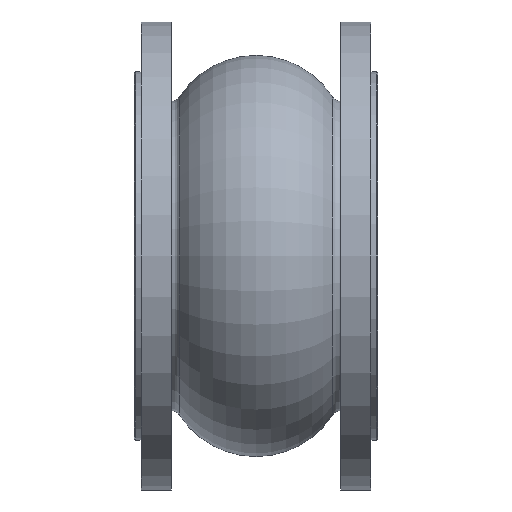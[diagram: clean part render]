
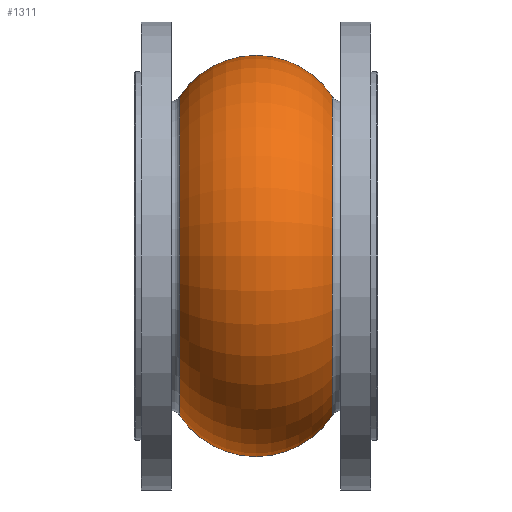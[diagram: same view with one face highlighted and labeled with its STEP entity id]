
A CAD part, front view. The second image highlights one B-rep face of the part: STEP entity #1311.
In plain terms, the highlighted toroidal (fillet/blend) face has major radius 79.302 mm and minor radius 66.395 mm.
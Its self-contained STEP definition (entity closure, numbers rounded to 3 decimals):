
#653 = CIRCLE ( 'NONE', #657, 115.735 ) ;
#657 = AXIS2_PLACEMENT_3D ( 'NONE', #794, #682, #875 ) ;
#682 = DIRECTION ( 'NONE',  ( -1., 0., 0. ) ) ;
#776 = CARTESIAN_POINT ( 'NONE',  ( -55.507, 0., -115.735 ) ) ;
#787 = CARTESIAN_POINT ( 'NONE',  ( 55.507, 0., -115.735 ) ) ;
#794 = CARTESIAN_POINT ( 'NONE',  ( 55.507, 0., 0. ) ) ;
#875 = DIRECTION ( 'NONE',  ( 0., 0., 1. ) ) ;
#1064 = CIRCLE ( 'NONE', #1067, 66.395 ) ;
#1067 = AXIS2_PLACEMENT_3D ( 'NONE', #1087, #1086, #1085 ) ;
#1085 = DIRECTION ( 'NONE',  ( 0., 0., 1. ) ) ;
#1086 = DIRECTION ( 'NONE',  ( 0., 1., 0. ) ) ;
#1087 = CARTESIAN_POINT ( 'NONE',  ( 0., 0., -79.302 ) ) ;
#1096 = DIRECTION ( 'NONE',  ( 0., 0., 1. ) ) ;
#1097 = DIRECTION ( 'NONE',  ( -1., 0., 0. ) ) ;
#1098 = CARTESIAN_POINT ( 'NONE',  ( -55.507, 0., 0. ) ) ;
#1101 = CIRCLE ( 'NONE', #1109, 115.735 ) ;
#1107 = AXIS2_PLACEMENT_3D ( 'NONE', #1155, #1154, #1153 ) ;
#1109 = AXIS2_PLACEMENT_3D ( 'NONE', #1098, #1097, #1096 ) ;
#1112 = CARTESIAN_POINT ( 'NONE',  ( 55.507, 0., 115.735 ) ) ;
#1120 = CARTESIAN_POINT ( 'NONE',  ( -55.507, 0., 115.735 ) ) ;
#1129 = CIRCLE ( 'NONE', #1107, 66.395 ) ;
#1153 = DIRECTION ( 'NONE',  ( 0., 0., -1. ) ) ;
#1154 = DIRECTION ( 'NONE',  ( 0., -1., 0. ) ) ;
#1155 = CARTESIAN_POINT ( 'NONE',  ( 0., 0., 79.302 ) ) ;
#1309 = ORIENTED_EDGE ( 'NONE', *, *, #1988, .F. ) ;
#1311 = ADVANCED_FACE ( 'NONE', ( #2378 ), #2393, .T. ) ;
#1315 = ORIENTED_EDGE ( 'NONE', *, *, #1992, .T. ) ;
#1404 = ORIENTED_EDGE ( 'NONE', *, *, #1951, .T. ) ;
#1417 = ORIENTED_EDGE ( 'NONE', *, *, #1963, .F. ) ;
#1419 = EDGE_LOOP ( 'NONE', ( #1417, #1404, #1315, #1309 ) ) ;
#1875 = VERTEX_POINT ( 'NONE', #787 ) ;
#1878 = VERTEX_POINT ( 'NONE', #776 ) ;
#1951 = EDGE_CURVE ( 'NONE', #1875, #1977, #653, .T. ) ;
#1963 = EDGE_CURVE ( 'NONE', #1875, #1878, #1064, .T. ) ;
#1977 = VERTEX_POINT ( 'NONE', #1112 ) ;
#1982 = VERTEX_POINT ( 'NONE', #1120 ) ;
#1988 = EDGE_CURVE ( 'NONE', #1878, #1982, #1101, .T. ) ;
#1992 = EDGE_CURVE ( 'NONE', #1977, #1982, #1129, .T. ) ;
#2335 = CARTESIAN_POINT ( 'NONE',  ( 0., 0., 0. ) ) ;
#2339 = AXIS2_PLACEMENT_3D ( 'NONE', #2335, #2370, #2369 ) ;
#2369 = DIRECTION ( 'NONE',  ( 0., 0., 1. ) ) ;
#2370 = DIRECTION ( 'NONE',  ( -1., 0., 0. ) ) ;
#2378 = FACE_OUTER_BOUND ( 'NONE', #1419, .T. ) ;
#2393 = TOROIDAL_SURFACE ( 'NONE', #2339, 79.302, 66.395 ) ;
